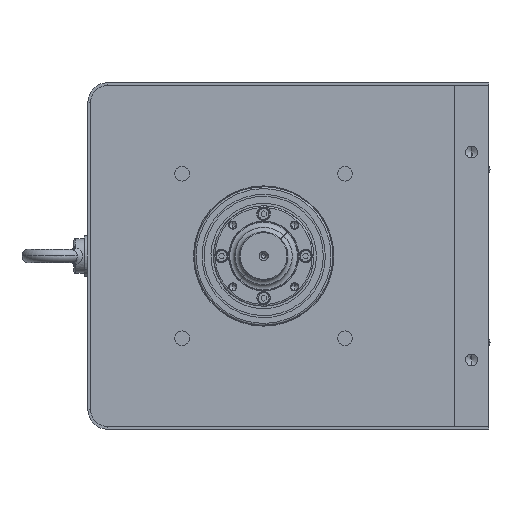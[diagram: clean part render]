
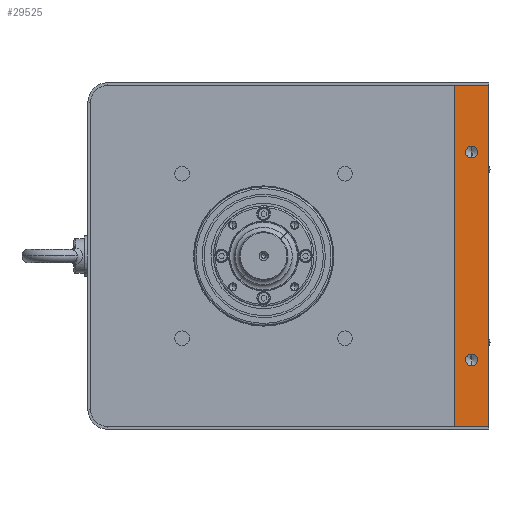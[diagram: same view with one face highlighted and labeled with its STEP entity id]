
A CAD part, left-side view. The second image highlights one B-rep face of the part: STEP entity #29525.
In plain terms, the highlighted planar face has unit normal (-1, 0, 0).
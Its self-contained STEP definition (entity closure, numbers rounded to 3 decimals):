
#522 = VERTEX_POINT ( 'NONE', #10844 ) ;
#884 = AXIS2_PLACEMENT_3D ( 'NONE', #88118, #98552, #59480 ) ;
#3333 = AXIS2_PLACEMENT_3D ( 'NONE', #13692, #23247, #83571 ) ;
#8270 = LINE ( 'NONE', #118452, #59514 ) ;
#10207 = DIRECTION ( 'NONE',  ( 1., 0., 0. ) ) ;
#10426 = CIRCLE ( 'NONE', #90194, 3.4 ) ;
#10844 = CARTESIAN_POINT ( 'NONE',  ( -290., 20., -98.5 ) ) ;
#12608 = CARTESIAN_POINT ( 'NONE',  ( -290., 0., 98.5 ) ) ;
#12865 = VERTEX_POINT ( 'NONE', #12608 ) ;
#13692 = CARTESIAN_POINT ( 'NONE',  ( -290., 10., -60. ) ) ;
#14019 = LINE ( 'NONE', #41425, #91603 ) ;
#16173 = CIRCLE ( 'NONE', #3333, 3.4 ) ;
#16993 = CARTESIAN_POINT ( 'NONE',  ( -290., 20., 98.5 ) ) ;
#17098 = CARTESIAN_POINT ( 'NONE',  ( -290., 20., -98.5 ) ) ;
#20676 = VERTEX_POINT ( 'NONE', #112557 ) ;
#23247 = DIRECTION ( 'NONE',  ( -1., 0., 0. ) ) ;
#24297 = VERTEX_POINT ( 'NONE', #89255 ) ;
#25659 = DIRECTION ( 'NONE',  ( 0., 0., 1. ) ) ;
#29525 = ADVANCED_FACE ( 'NONE', ( #50010, #126199, #46932 ), #126561, .F. ) ;
#33542 = ORIENTED_EDGE ( 'NONE', *, *, #104818, .F. ) ;
#33991 = CARTESIAN_POINT ( 'NONE',  ( -290., 10., -60. ) ) ;
#37141 = ORIENTED_EDGE ( 'NONE', *, *, #101946, .F. ) ;
#38315 = EDGE_LOOP ( 'NONE', ( #128632, #122853 ) ) ;
#39138 = CARTESIAN_POINT ( 'NONE',  ( -290., 10., 56.6 ) ) ;
#40028 = VERTEX_POINT ( 'NONE', #16993 ) ;
#41425 = CARTESIAN_POINT ( 'NONE',  ( -290., 0., -98.5 ) ) ;
#43976 = DIRECTION ( 'NONE',  ( 0., -1., 0. ) ) ;
#46932 = FACE_OUTER_BOUND ( 'NONE', #104822, .T. ) ;
#47195 = AXIS2_PLACEMENT_3D ( 'NONE', #17098, #10207, #66981 ) ;
#50010 = FACE_BOUND ( 'NONE', #66665, .T. ) ;
#51397 = AXIS2_PLACEMENT_3D ( 'NONE', #33991, #103859, #122603 ) ;
#55709 = VERTEX_POINT ( 'NONE', #124589 ) ;
#58741 = VECTOR ( 'NONE', #128697, 1000. ) ;
#59480 = DIRECTION ( 'NONE',  ( 0., 0., 1. ) ) ;
#59514 = VECTOR ( 'NONE', #78846, 1000. ) ;
#62154 = CARTESIAN_POINT ( 'NONE',  ( -290., 20., 98.5 ) ) ;
#66665 = EDGE_LOOP ( 'NONE', ( #119522, #33542 ) ) ;
#66981 = DIRECTION ( 'NONE',  ( 0., 0., -1. ) ) ;
#69532 = CARTESIAN_POINT ( 'NONE',  ( -290., 20., -98.5 ) ) ;
#74308 = LINE ( 'NONE', #69532, #58741 ) ;
#74928 = CARTESIAN_POINT ( 'NONE',  ( -290., 10., -63.4 ) ) ;
#76927 = CIRCLE ( 'NONE', #51397, 3.4 ) ;
#78846 = DIRECTION ( 'NONE',  ( 0., -1., 0. ) ) ;
#82045 = ORIENTED_EDGE ( 'NONE', *, *, #88464, .F. ) ;
#83571 = DIRECTION ( 'NONE',  ( 0., 0., 1. ) ) ;
#85096 = CARTESIAN_POINT ( 'NONE',  ( -290., 10., 60. ) ) ;
#88118 = CARTESIAN_POINT ( 'NONE',  ( -290., 10., 60. ) ) ;
#88464 = EDGE_CURVE ( 'NONE', #40028, #12865, #127349, .T. ) ;
#89255 = CARTESIAN_POINT ( 'NONE',  ( -290., 10., -56.6 ) ) ;
#90194 = AXIS2_PLACEMENT_3D ( 'NONE', #85096, #114722, #25659 ) ;
#91287 = DIRECTION ( 'NONE',  ( 0., 0., 1. ) ) ;
#91603 = VECTOR ( 'NONE', #91287, 1000. ) ;
#91792 = VERTEX_POINT ( 'NONE', #74928 ) ;
#96237 = EDGE_CURVE ( 'NONE', #107948, #20676, #114222, .T. ) ;
#98552 = DIRECTION ( 'NONE',  ( -1., 0., 0. ) ) ;
#101946 = EDGE_CURVE ( 'NONE', #522, #40028, #74308, .T. ) ;
#102470 = VECTOR ( 'NONE', #43976, 1000. ) ;
#103859 = DIRECTION ( 'NONE',  ( -1., 0., 0. ) ) ;
#104818 = EDGE_CURVE ( 'NONE', #91792, #24297, #76927, .T. ) ;
#104822 = EDGE_LOOP ( 'NONE', ( #123207, #82045, #37141, #127045 ) ) ;
#106023 = EDGE_CURVE ( 'NONE', #24297, #91792, #16173, .T. ) ;
#107024 = EDGE_CURVE ( 'NONE', #522, #55709, #8270, .T. ) ;
#107948 = VERTEX_POINT ( 'NONE', #39138 ) ;
#111144 = EDGE_CURVE ( 'NONE', #20676, #107948, #10426, .T. ) ;
#112557 = CARTESIAN_POINT ( 'NONE',  ( -290., 10., 63.4 ) ) ;
#114222 = CIRCLE ( 'NONE', #884, 3.4 ) ;
#114722 = DIRECTION ( 'NONE',  ( -1., 0., 0. ) ) ;
#116656 = EDGE_CURVE ( 'NONE', #55709, #12865, #14019, .T. ) ;
#118452 = CARTESIAN_POINT ( 'NONE',  ( -290., 20., -98.5 ) ) ;
#119522 = ORIENTED_EDGE ( 'NONE', *, *, #106023, .F. ) ;
#122603 = DIRECTION ( 'NONE',  ( 0., 0., 1. ) ) ;
#122853 = ORIENTED_EDGE ( 'NONE', *, *, #96237, .F. ) ;
#123207 = ORIENTED_EDGE ( 'NONE', *, *, #116656, .T. ) ;
#124589 = CARTESIAN_POINT ( 'NONE',  ( -290., 0., -98.5 ) ) ;
#126199 = FACE_BOUND ( 'NONE', #38315, .T. ) ;
#126561 = PLANE ( 'NONE',  #47195 ) ;
#127045 = ORIENTED_EDGE ( 'NONE', *, *, #107024, .T. ) ;
#127349 = LINE ( 'NONE', #62154, #102470 ) ;
#128632 = ORIENTED_EDGE ( 'NONE', *, *, #111144, .F. ) ;
#128697 = DIRECTION ( 'NONE',  ( 0., 0., 1. ) ) ;
